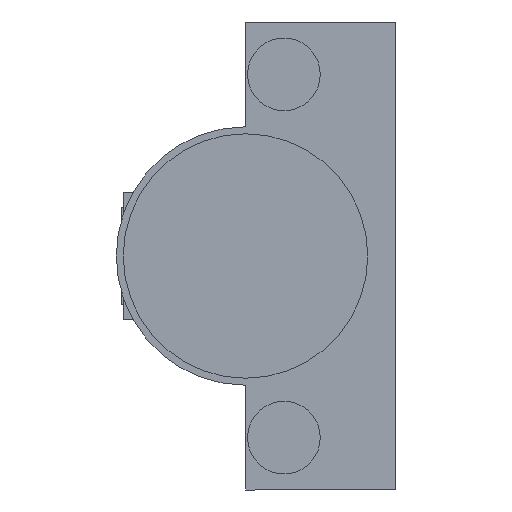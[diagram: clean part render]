
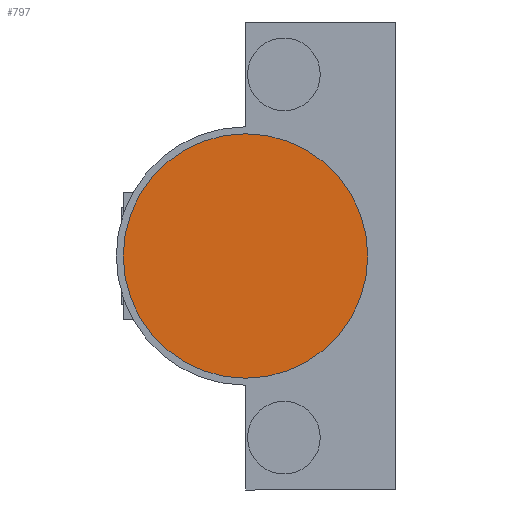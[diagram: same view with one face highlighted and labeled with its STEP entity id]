
A CAD part, front view. The second image highlights one B-rep face of the part: STEP entity #797.
In plain terms, the highlighted planar face has unit normal (0, -1, 0).
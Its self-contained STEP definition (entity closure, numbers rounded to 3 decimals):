
#23 = DIRECTION ( 'NONE',  ( 1., 0., 0. ) ) ;
#26 = DIRECTION ( 'NONE',  ( 0., -1., 0. ) ) ;
#40 = CARTESIAN_POINT ( 'NONE',  ( 21.5, -51.1, 0. ) ) ;
#41 = DIRECTION ( 'NONE',  ( 0., -1., 0. ) ) ;
#67 = CARTESIAN_POINT ( 'NONE',  ( 21.5, -51.1, 0. ) ) ;
#79 = CIRCLE ( 'NONE', #1179, 17.5 ) ;
#103 = DIRECTION ( 'NONE',  ( 1., 0., 0. ) ) ;
#116 = DIRECTION ( 'NONE',  ( 1., 0., 0. ) ) ;
#118 = DIRECTION ( 'NONE',  ( 0., -1., 0. ) ) ;
#171 = CARTESIAN_POINT ( 'NONE',  ( 21.5, -51.1, 0. ) ) ;
#289 = ORIENTED_EDGE ( 'NONE', *, *, #612, .T. ) ;
#321 = CIRCLE ( 'NONE', #656, 17.5 ) ;
#385 = CARTESIAN_POINT ( 'NONE',  ( 4., -51.1, 0. ) ) ;
#480 = EDGE_CURVE ( 'NONE', #582, #980, #321, .T. ) ;
#487 = PLANE ( 'NONE',  #1146 ) ;
#582 = VERTEX_POINT ( 'NONE', #385 ) ;
#612 = EDGE_CURVE ( 'NONE', #980, #582, #79, .T. ) ;
#656 = AXIS2_PLACEMENT_3D ( 'NONE', #40, #26, #23 ) ;
#666 = ORIENTED_EDGE ( 'NONE', *, *, #480, .T. ) ;
#797 = ADVANCED_FACE ( 'NONE', ( #1667 ), #487, .T. ) ;
#980 = VERTEX_POINT ( 'NONE', #1670 ) ;
#999 = EDGE_LOOP ( 'NONE', ( #666, #289 ) ) ;
#1146 = AXIS2_PLACEMENT_3D ( 'NONE', #171, #118, #103 ) ;
#1179 = AXIS2_PLACEMENT_3D ( 'NONE', #67, #41, #116 ) ;
#1667 = FACE_OUTER_BOUND ( 'NONE', #999, .T. ) ;
#1670 = CARTESIAN_POINT ( 'NONE',  ( 39., -51.1, 0. ) ) ;
